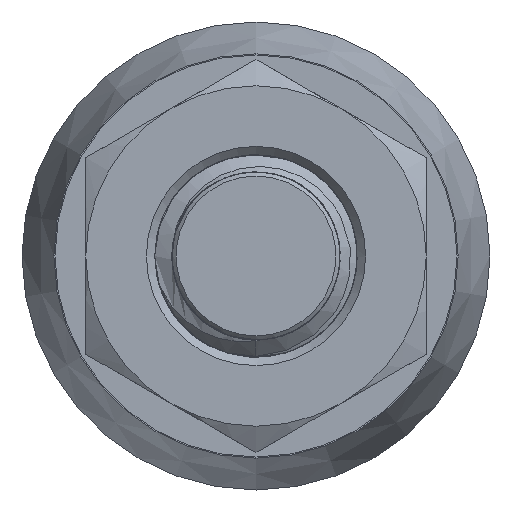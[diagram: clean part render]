
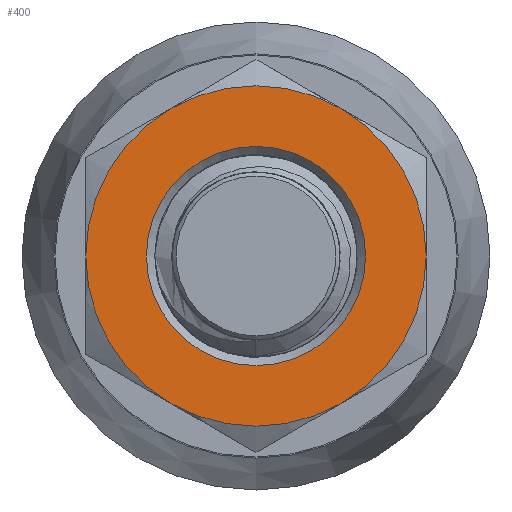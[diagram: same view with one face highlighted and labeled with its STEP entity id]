
A CAD part, left-side view. The second image highlights one B-rep face of the part: STEP entity #400.
In plain terms, the highlighted planar face has unit normal (-1, 0, 0).
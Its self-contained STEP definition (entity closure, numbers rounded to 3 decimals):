
#292=PLANE('',#1568);
#400=ADVANCED_FACE('',(#512,#513),#292,.T.);
#512=FACE_BOUND('',#608,.T.);
#513=FACE_BOUND('',#609,.T.);
#608=EDGE_LOOP('',(#792));
#609=EDGE_LOOP('',(#793,#794,#795,#796,#797,#798));
#792=ORIENTED_EDGE('',*,*,#1167,.T.);
#793=ORIENTED_EDGE('',*,*,#1168,.F.);
#794=ORIENTED_EDGE('',*,*,#1169,.F.);
#795=ORIENTED_EDGE('',*,*,#1170,.F.);
#796=ORIENTED_EDGE('',*,*,#1171,.F.);
#797=ORIENTED_EDGE('',*,*,#1172,.F.);
#798=ORIENTED_EDGE('',*,*,#1173,.F.);
#1026=VERTEX_POINT('',#10024);
#1032=VERTEX_POINT('',#10049);
#1036=VERTEX_POINT('',#10071);
#1040=VERTEX_POINT('',#10093);
#1044=VERTEX_POINT('',#10115);
#1047=VERTEX_POINT('',#10136);
#1051=VERTEX_POINT('',#10157);
#1167=EDGE_CURVE('',#1051,#1051,#1285,.T.);
#1168=EDGE_CURVE('',#1047,#1026,#1286,.T.);
#1169=EDGE_CURVE('',#1044,#1047,#1287,.T.);
#1170=EDGE_CURVE('',#1040,#1044,#1288,.T.);
#1171=EDGE_CURVE('',#1036,#1040,#1289,.T.);
#1172=EDGE_CURVE('',#1032,#1036,#1290,.T.);
#1173=EDGE_CURVE('',#1026,#1032,#1291,.T.);
#1285=CIRCLE('',#1561,2.575);
#1286=CIRCLE('',#1562,4.);
#1287=CIRCLE('',#1563,4.);
#1288=CIRCLE('',#1564,4.);
#1289=CIRCLE('',#1565,4.);
#1290=CIRCLE('',#1566,4.);
#1291=CIRCLE('',#1567,4.);
#1561=AXIS2_PLACEMENT_3D('',#10156,#1806,#1807);
#1562=AXIS2_PLACEMENT_3D('',#10158,#1808,#1809);
#1563=AXIS2_PLACEMENT_3D('',#10159,#1810,#1811);
#1564=AXIS2_PLACEMENT_3D('',#10160,#1812,#1813);
#1565=AXIS2_PLACEMENT_3D('',#10161,#1814,#1815);
#1566=AXIS2_PLACEMENT_3D('',#10162,#1816,#1817);
#1567=AXIS2_PLACEMENT_3D('',#10163,#1818,#1819);
#1568=AXIS2_PLACEMENT_3D('',#10164,#1820,#1821);
#1806=DIRECTION('',(1.,0.,0.));
#1807=DIRECTION('',(0.,0.,1.));
#1808=DIRECTION('',(1.,0.,0.));
#1809=DIRECTION('',(0.,0.,-1.));
#1810=DIRECTION('',(1.,0.,0.));
#1811=DIRECTION('',(0.,0.,-1.));
#1812=DIRECTION('',(1.,0.,0.));
#1813=DIRECTION('',(0.,0.,-1.));
#1814=DIRECTION('',(1.,0.,0.));
#1815=DIRECTION('',(0.,0.,-1.));
#1816=DIRECTION('',(1.,0.,0.));
#1817=DIRECTION('',(0.,0.,-1.));
#1818=DIRECTION('',(1.,0.,0.));
#1819=DIRECTION('',(0.,0.,-1.));
#1820=DIRECTION('',(-1.,0.,0.));
#1821=DIRECTION('',(0.,0.,1.));
#10024=CARTESIAN_POINT('',(-37.027,4.,0.));
#10049=CARTESIAN_POINT('',(-37.027,2.,3.464));
#10071=CARTESIAN_POINT('',(-37.027,-2.,3.464));
#10093=CARTESIAN_POINT('',(-37.027,-4.,0.));
#10115=CARTESIAN_POINT('',(-37.027,-2.,-3.464));
#10136=CARTESIAN_POINT('',(-37.027,2.,-3.464));
#10156=CARTESIAN_POINT('',(-37.027,0.,0.));
#10157=CARTESIAN_POINT('',(-37.027,0.,2.575));
#10158=CARTESIAN_POINT('',(-37.027,0.,0.));
#10159=CARTESIAN_POINT('',(-37.027,0.,0.));
#10160=CARTESIAN_POINT('',(-37.027,0.,0.));
#10161=CARTESIAN_POINT('',(-37.027,0.,0.));
#10162=CARTESIAN_POINT('',(-37.027,0.,0.));
#10163=CARTESIAN_POINT('',(-37.027,0.,0.));
#10164=CARTESIAN_POINT('',(-37.027,0.,0.));
